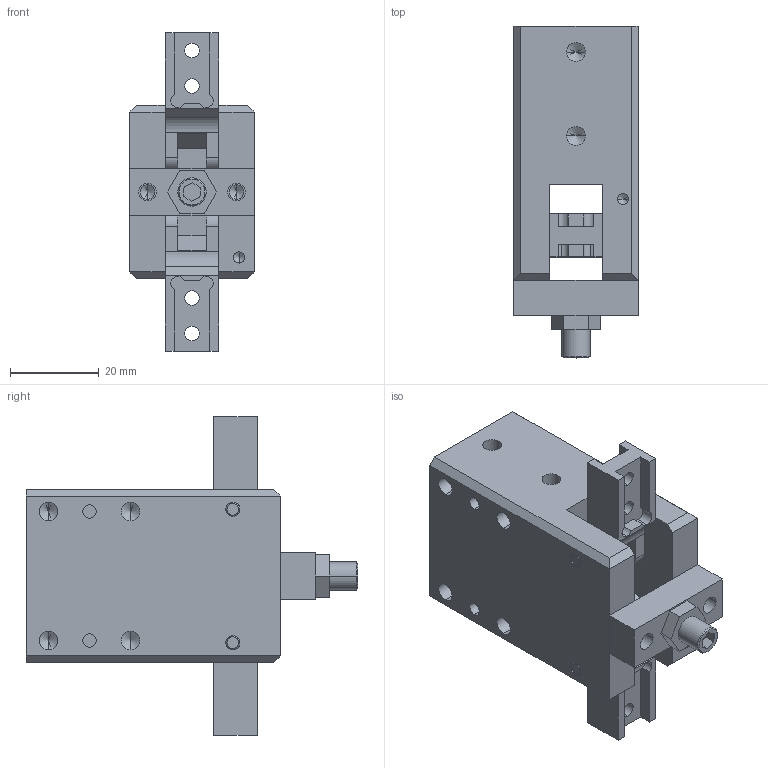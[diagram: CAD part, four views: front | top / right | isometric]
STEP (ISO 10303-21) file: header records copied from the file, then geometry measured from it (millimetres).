
FILE_DESCRIPTION (( 'STEP AP203' ), '1' );
FILE_NAME ('AGA-20 OPEN in MM.STEP', '2014-11-25T14:39:12', ( 'setup' ), ( '' ), 'SwSTEP 2.0', 'SolidWorks 2013', '' );
FILE_SCHEMA (( 'CONFIG_CONTROL_DESIGN' ));
Length unit declared in the file: millimetre
Products named in the file (5): AGA-20 BODY; AGA-20 JAW; AGA-20 PIN; AGA-20 ADJMENT BLOCK; AGA-20 OPEN in MM
Assembly tree (6 placements, depth 2):
  AGA-20 OPEN in MM
    AGA-20 BODY
    AGA-20 JAW  x2
    AGA-20 PIN  x2
    AGA-20 ADJMENT BLOCK
Bounding box: 27.99 x 74.6 x 71.6 mm (x, y, z)
Volume: 56312.4 mm3; surface area: 18678.7 mm2
Topology: 6 solids, 6 shells, 236 faces, 594 edges, 358 vertices
Faces by surface type: cylinder 110, plane 84, cone 42
Entity records: 5986 total; most frequent: DIRECTION 989, CARTESIAN_POINT 935, ORIENTED_EDGE 874, EDGE_CURVE 437, AXIS2_PLACEMENT_3D 362, VERTEX_POINT 276, LINE 265, VECTOR 265
